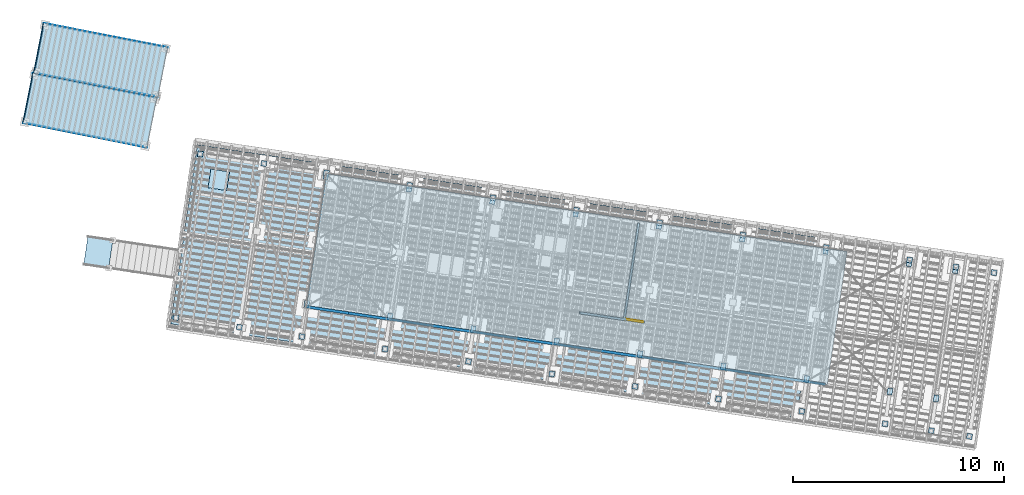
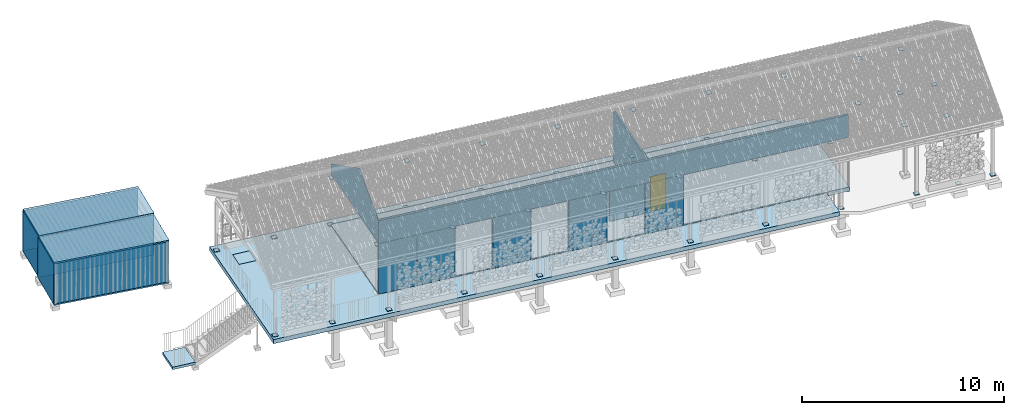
# One storey, part 120 of 131: 50 plates, 7 slabs, 7 walls, 1 door, 3 openings, 5 elements without a shape of their own.
"""IFC4 building model written with IfcOpenShell, lengths in metres."""

from ifc_helpers import new_model, si_unit, direction, frame, origin_with_axes, place, context, subcontext, project, spatial, polyline, outline, extrude, material, layer, layer_set, constituent, constituent_set, element, fill, aggregate, save


model = new_model("IFC4")

# Units and contexts
model_context = context("Model", 3, precision=1e-05, world=origin_with_axes(), true_north=direction((0.0, 1.0)))
body_context = subcontext(model_context, "Body", "Model", "MODEL_VIEW")
ifc_project = project(units=[si_unit("VOLUMEUNIT", "CUBIC_METRE"), si_unit("LENGTHUNIT", "METRE"), si_unit("AREAUNIT", "SQUARE_METRE")], contexts=[model_context])

# Site, building, storey
site_placement = place(None, origin_with_axes())
site = spatial("IfcSite", under=ifc_project, at=site_placement, Name="Lares · Rua das Mercês · artigo 4771")
building_placement = place(site_placement, frame((15.0, 9.7, 14.65), z_axis=(0.0, 0.0, 1.0), x_axis=(0.989015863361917, -0.147809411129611, 0.0)))
building = spatial("IfcBuilding", under=site, at=building_placement, Name="Casa Sobreposta")
storey_placement = place(building_placement, origin_with_axes())
storey = spatial("IfcBuildingStorey", under=building, at=storey_placement, Name="00 · Habitação e estacionamento", Elevation=14.65)

# Plates
ifc_material_1 = material(Name="Aço galvanizado / Stahl verzinkt", Category="steel")
plate_1_placement = place(storey_placement, frame((0.0, 0.0, 2.89), z_axis=(0.0, 0.0, 1.0), x_axis=(1.0, 0.0, 0.0)))
element("IfcPlate", 1, at=plate_1_placement, inside=storey, material=ifc_material_1, Name="Cobertura · ligação madeira aço", PredefinedType="SHEET", context=body_context, shape_type="SweptSolid", body=[
    extrude(outline(polyline([(0.12, -0.04), (0.12, 0.28), (-0.12, 0.28), (-0.12, -0.04), (0.12, -0.04)])), origin_with_axes(), (0.0, 0.0, 1.0), 0.012),
])
plate_2_placement = place(storey_placement, frame((0.0, 0.0, 2.89), z_axis=(0.0, 0.0, 1.0), x_axis=(1.0, 0.0, 0.0)))
element("IfcPlate", 2, at=plate_2_placement, inside=storey, material=ifc_material_1, Name="Cobertura · ligação madeira aço", PredefinedType="SHEET", context=body_context, shape_type="SweptSolid", body=[
    extrude(outline(polyline([(0.12, 6.12), (0.12, 6.44), (-0.12, 6.44), (-0.12, 6.12), (0.12, 6.12)])), origin_with_axes(), (0.0, 0.0, 1.0), 0.012),
])
plate_3_placement = place(storey_placement, frame((0.0, 0.0, 2.89), z_axis=(0.0, 0.0, 1.0), x_axis=(1.0, 0.0, 0.0)))
element("IfcPlate", 3, at=plate_3_placement, inside=storey, material=ifc_material_1, Name="Cobertura · ligação madeira aço", PredefinedType="SHEET", context=body_context, shape_type="SweptSolid", body=[
    extrude(outline(polyline([(4.12, -0.04), (4.12, 0.28), (3.88, 0.28), (3.88, -0.04), (4.12, -0.04)])), origin_with_axes(), (0.0, 0.0, 1.0), 0.012),
])
plate_4_placement = place(storey_placement, frame((0.0, 0.0, 2.89), z_axis=(0.0, 0.0, 1.0), x_axis=(1.0, 0.0, 0.0)))
element("IfcPlate", 4, at=plate_4_placement, inside=storey, material=ifc_material_1, Name="Cobertura · ligação madeira aço", PredefinedType="SHEET", context=body_context, shape_type="SweptSolid", body=[
    extrude(outline(polyline([(4.12, 6.12), (4.12, 6.44), (3.88, 6.44), (3.88, 6.12), (4.12, 6.12)])), origin_with_axes(), (0.0, 0.0, 1.0), 0.012),
])
plate_5_placement = place(storey_placement, frame((0.0, 0.0, 2.89), z_axis=(0.0, 0.0, 1.0), x_axis=(1.0, 0.0, 0.0)))
element("IfcPlate", 5, at=plate_5_placement, inside=storey, material=ifc_material_1, Name="Cobertura · ligação madeira aço", PredefinedType="SHEET", context=body_context, shape_type="SweptSolid", body=[
    extrude(outline(polyline([(8.12, -0.04), (8.12, 0.28), (7.88, 0.28), (7.88, -0.04), (8.12, -0.04)])), origin_with_axes(), (0.0, 0.0, 1.0), 0.012),
])
plate_6_placement = place(storey_placement, frame((0.0, 0.0, 2.89), z_axis=(0.0, 0.0, 1.0), x_axis=(1.0, 0.0, 0.0)))
element("IfcPlate", 6, at=plate_6_placement, inside=storey, material=ifc_material_1, Name="Cobertura · ligação madeira aço", PredefinedType="SHEET", context=body_context, shape_type="SweptSolid", body=[
    extrude(outline(polyline([(8.12, 6.12), (8.12, 6.44), (7.88, 6.44), (7.88, 6.12), (8.12, 6.12)])), origin_with_axes(), (0.0, 0.0, 1.0), 0.012),
])
plate_7_placement = place(storey_placement, frame((0.0, 0.0, 2.89), z_axis=(0.0, 0.0, 1.0), x_axis=(1.0, 0.0, 0.0)))
element("IfcPlate", 7, at=plate_7_placement, inside=storey, material=ifc_material_1, Name="Cobertura · ligação madeira aço", PredefinedType="SHEET", context=body_context, shape_type="SweptSolid", body=[
    extrude(outline(polyline([(12.12, -0.04), (12.12, 0.28), (11.88, 0.28), (11.88, -0.04), (12.12, -0.04)])), origin_with_axes(), (0.0, 0.0, 1.0), 0.012),
])
plate_8_placement = place(storey_placement, frame((0.0, 0.0, 2.89), z_axis=(0.0, 0.0, 1.0), x_axis=(1.0, 0.0, 0.0)))
element("IfcPlate", 8, at=plate_8_placement, inside=storey, material=ifc_material_1, Name="Cobertura · ligação madeira aço", PredefinedType="SHEET", context=body_context, shape_type="SweptSolid", body=[
    extrude(outline(polyline([(12.12, 6.12), (12.12, 6.44), (11.88, 6.44), (11.88, 6.12), (12.12, 6.12)])), origin_with_axes(), (0.0, 0.0, 1.0), 0.012),
])
plate_9_placement = place(storey_placement, frame((0.0, 0.0, 2.89), z_axis=(0.0, 0.0, 1.0), x_axis=(1.0, 0.0, 0.0)))
element("IfcPlate", 9, at=plate_9_placement, inside=storey, material=ifc_material_1, Name="Cobertura · ligação madeira aço", PredefinedType="SHEET", context=body_context, shape_type="SweptSolid", body=[
    extrude(outline(polyline([(16.12, -0.04), (16.12, 0.28), (15.88, 0.28), (15.88, -0.04), (16.12, -0.04)])), origin_with_axes(), (0.0, 0.0, 1.0), 0.012),
])
plate_10_placement = place(storey_placement, frame((0.0, 0.0, 2.89), z_axis=(0.0, 0.0, 1.0), x_axis=(1.0, 0.0, 0.0)))
element("IfcPlate", 10, at=plate_10_placement, inside=storey, material=ifc_material_1, Name="Cobertura · ligação madeira aço", PredefinedType="SHEET", context=body_context, shape_type="SweptSolid", body=[
    extrude(outline(polyline([(16.12, 6.12), (16.12, 6.44), (15.88, 6.44), (15.88, 6.12), (16.12, 6.12)])), origin_with_axes(), (0.0, 0.0, 1.0), 0.012),
])
plate_11_placement = place(storey_placement, frame((0.0, 0.0, 2.89), z_axis=(0.0, 0.0, 1.0), x_axis=(1.0, 0.0, 0.0)))
element("IfcPlate", 11, at=plate_11_placement, inside=storey, material=ifc_material_1, Name="Cobertura · ligação madeira aço", PredefinedType="SHEET", context=body_context, shape_type="SweptSolid", body=[
    extrude(outline(polyline([(20.12, -0.04), (20.12, 0.28), (19.88, 0.28), (19.88, -0.04), (20.12, -0.04)])), origin_with_axes(), (0.0, 0.0, 1.0), 0.012),
])
plate_12_placement = place(storey_placement, frame((0.0, 0.0, 2.89), z_axis=(0.0, 0.0, 1.0), x_axis=(1.0, 0.0, 0.0)))
element("IfcPlate", 12, at=plate_12_placement, inside=storey, material=ifc_material_1, Name="Cobertura · ligação madeira aço", PredefinedType="SHEET", context=body_context, shape_type="SweptSolid", body=[
    extrude(outline(polyline([(20.12, 6.12), (20.12, 6.44), (19.88, 6.44), (19.88, 6.12), (20.12, 6.12)])), origin_with_axes(), (0.0, 0.0, 1.0), 0.012),
])
plate_13_placement = place(storey_placement, frame((0.0, 0.0, 2.89), z_axis=(0.0, 0.0, 1.0), x_axis=(1.0, 0.0, 0.0)))
element("IfcPlate", 13, at=plate_13_placement, inside=storey, material=ifc_material_1, Name="Cobertura · ligação madeira aço", PredefinedType="SHEET", context=body_context, shape_type="SweptSolid", body=[
    extrude(outline(polyline([(24.12, -0.04), (24.12, 0.28), (23.88, 0.28), (23.88, -0.04), (24.12, -0.04)])), origin_with_axes(), (0.0, 0.0, 1.0), 0.012),
])
plate_14_placement = place(storey_placement, frame((0.0, 0.0, 2.89), z_axis=(0.0, 0.0, 1.0), x_axis=(1.0, 0.0, 0.0)))
element("IfcPlate", 14, at=plate_14_placement, inside=storey, material=ifc_material_1, Name="Cobertura · ligação madeira aço", PredefinedType="SHEET", context=body_context, shape_type="SweptSolid", body=[
    extrude(outline(polyline([(24.12, 6.12), (24.12, 6.44), (23.88, 6.44), (23.88, 6.12), (24.12, 6.12)])), origin_with_axes(), (0.0, 0.0, 1.0), 0.012),
])
plate_15_placement = place(storey_placement, frame((0.0, 0.0, 2.89), z_axis=(0.0, 0.0, 1.0), x_axis=(1.0, 0.0, 0.0)))
element("IfcPlate", 15, at=plate_15_placement, inside=storey, material=ifc_material_1, Name="Cobertura · ligação madeira aço", PredefinedType="SHEET", context=body_context, shape_type="SweptSolid", body=[
    extrude(outline(polyline([(28.12, -0.04), (28.12, 0.28), (27.88, 0.28), (27.88, -0.04), (28.12, -0.04)])), origin_with_axes(), (0.0, 0.0, 1.0), 0.012),
])
plate_16_placement = place(storey_placement, frame((0.0, 0.0, 2.89), z_axis=(0.0, 0.0, 1.0), x_axis=(1.0, 0.0, 0.0)))
element("IfcPlate", 16, at=plate_16_placement, inside=storey, material=ifc_material_1, Name="Cobertura · ligação madeira aço", PredefinedType="SHEET", context=body_context, shape_type="SweptSolid", body=[
    extrude(outline(polyline([(28.12, 6.12), (28.12, 6.44), (27.88, 6.44), (27.88, 6.12), (28.12, 6.12)])), origin_with_axes(), (0.0, 0.0, 1.0), 0.012),
])
plate_17_placement = place(storey_placement, frame((0.0, 0.0, 2.89), z_axis=(0.0, 0.0, 1.0), x_axis=(1.0, 0.0, 0.0)))
element("IfcPlate", 17, at=plate_17_placement, inside=storey, material=ifc_material_1, Name="Cobertura · ligação madeira aço", PredefinedType="SHEET", context=body_context, shape_type="SweptSolid", body=[
    extrude(outline(polyline([(30.34, -0.04), (30.34, 0.28), (30.1, 0.28), (30.1, -0.04), (30.34, -0.04)])), origin_with_axes(), (0.0, 0.0, 1.0), 0.012),
])
plate_18_placement = place(storey_placement, frame((0.0, 0.0, 2.89), z_axis=(0.0, 0.0, 1.0), x_axis=(1.0, 0.0, 0.0)))
element("IfcPlate", 18, at=plate_18_placement, inside=storey, material=ifc_material_1, Name="Cobertura · ligação madeira aço", PredefinedType="SHEET", context=body_context, shape_type="SweptSolid", body=[
    extrude(outline(polyline([(30.34, 6.12), (30.34, 6.44), (30.1, 6.44), (30.1, 6.12), (30.34, 6.12)])), origin_with_axes(), (0.0, 0.0, 1.0), 0.012),
])
ifc_material_2 = material(Name="Vidro / Normalglas", Category="glass")
plate_19_placement = place(storey_placement, frame((0.0, 0.0, 0.0), z_axis=(1.0, 0.0, 0.0), x_axis=(0.0, 1.0, 0.0)))
element("IfcPlate", 19, at=plate_19_placement, inside=storey, material=ifc_material_2, Name="Empena poente envidraçada", PredefinedType="SHEET", context=body_context, shape_type="SweptSolid", body=[
    extrude(outline(polyline([(0.0, 3.05), (6.4, 3.05), (6.4, 3.66641016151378), (2.55, 5.88920869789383), (0.0, 4.41696551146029), (0.0, 3.05)])), origin_with_axes(), (0.0, 0.0, 1.0), 0.02),
])

# Assembly, slabs, opening, plate
assembly_1_placement = place(storey_placement, origin_with_axes())
assembly_1 = element("IfcElementAssembly", 20, at=assembly_1_placement, inside=storey, Name="Pódio · terraço, casa térrea e cisterna", ObjectType="CISTERN_PODIUM", PredefinedType="USERDEFINED")
ifc_material_3 = material(Name="Betão armado / Stahlbeton", Category="concrete")
slab_1_placement = place(assembly_1_placement, frame((0.0, 0.0, -0.25), z_axis=(0.0, 0.0, 1.0), x_axis=(1.0, 0.0, 0.0)))
slab_1 = element("IfcSlab", 21, at=slab_1_placement, material=ifc_material_3, Name="Pódio · laje da casa 250 mm", PredefinedType="FLOOR", context=body_context, shape_type="SweptSolid", body=[
    extrude(outline(polyline([(25.01, 0.0), (25.01, 6.4), (0.0, 6.4), (0.0, 0.0), (25.01, 0.0)])), origin_with_axes(), (0.0, 0.0, 1.0), 0.25),
])
slab_2_placement = place(assembly_1_placement, frame((0.0, 0.0, -0.29), z_axis=(0.0, 0.0, 1.0), x_axis=(1.0, 0.0, 0.0)))
slab_2 = element("IfcSlab", 22, at=slab_2_placement, material=ifc_material_3, Name="Pódio · terraço e faixa de proteção sul", PredefinedType="FLOOR", context=body_context, shape_type="SweptSolid", body=[
    extrude(outline(polyline([(-6.25, 6.85), (23.8, 6.85), (23.8, 6.4), (0.0, 6.4), (0.0, 0.0), (23.8, 0.0), (23.8, -1.75), (-6.25, -1.75), (-6.25, 6.85)])), origin_with_axes(), (0.0, 0.0, 1.0), 0.25),
])
opening_1_placement = place(slab_2_placement, frame((0.0, 0.0, -0.06), z_axis=(0.0, 0.0, 1.0), x_axis=(1.0, 0.0, 0.0)))
element("IfcOpeningElement", 23, at=opening_1_placement, cuts=slab_2, Name="Cisterna · abertura de inspeção", PredefinedType="OPENING", context=body_context, shape_type="SweptSolid", body=[
    extrude(outline(polyline([(-4.55, 4.9), (-4.55, 5.8), (-5.45, 5.8), (-5.45, 4.9), (-4.55, 4.9)])), origin_with_axes(), (0.0, 0.0, 1.0), 0.4),
])
plate_20_placement = place(assembly_1_placement, frame((0.0, 0.0, -0.085), z_axis=(0.0, 0.0, 1.0), x_axis=(1.0, 0.0, 0.0)))
plate_20 = element("IfcPlate", 24, at=plate_20_placement, material=ifc_material_1, Name="Cisterna · tampa estanque de inspeção", PredefinedType="SHEET", context=body_context, shape_type="SweptSolid", body=[
    extrude(outline(polyline([(-4.55, 4.9), (-4.55, 5.8), (-5.45, 5.8), (-5.45, 4.9), (-4.55, 4.9)])), origin_with_axes(), (0.0, 0.0, 1.0), 0.045),
])
aggregate(assembly_1, [slab_1, slab_2, plate_20])

# Stair, slab
stair_placement = place(storey_placement, origin_with_axes())
stair = element("IfcStair", 25, at=stair_placement, inside=storey, Name="Jardim · escada pela fachada poente", PredefinedType="STRAIGHT_RUN_STAIR")
slab_3_placement = place(stair_placement, frame((0.0, 0.0, -2.1), z_axis=(0.0, 0.0, 1.0), x_axis=(1.0, 0.0, 0.0)))
slab_3 = element("IfcSlab", 26, at=slab_3_placement, material=ifc_material_3, Name="Jardim · patamar poente", PredefinedType="LANDING", context=body_context, shape_type="SweptSolid", body=[
    extrude(outline(polyline([(-9.55, 0.4), (-9.55, 1.8), (-10.75, 1.8), (-10.75, 0.4), (-9.55, 0.4)])), origin_with_axes(), (0.0, 0.0, 1.0), 0.15),
])
aggregate(stair, [slab_3])

# Assembly, plates
assembly_2_placement = place(storey_placement, origin_with_axes())
assembly_2 = element("IfcElementAssembly", 27, at=assembly_2_placement, inside=storey, Name="Varanda coberta · continuação integral da cobertura", ObjectType="COVERED_PODIUM_BALCONY", PredefinedType="USERDEFINED")
plate_21_placement = place(assembly_2_placement, frame((0.0, 0.0, -0.04), z_axis=(0.0, 0.0, 1.0), x_axis=(1.0, 0.0, 0.0)))
plate_21 = element("IfcPlate", 28, at=plate_21_placement, material=ifc_material_1, Name="Varanda coberta · base metálica", PredefinedType="SHEET", context=body_context, shape_type="SweptSolid", body=[
    extrude(outline(polyline([(-5.92, -1.56), (-5.92, -1.3), (-6.18, -1.3), (-6.18, -1.56), (-5.92, -1.56)])), origin_with_axes(), (0.0, 0.0, 1.0), 0.025),
])
plate_22_placement = place(assembly_2_placement, frame((0.0, 0.0, -0.04), z_axis=(0.0, 0.0, 1.0), x_axis=(1.0, 0.0, 0.0)))
plate_22 = element("IfcPlate", 29, at=plate_22_placement, material=ifc_material_1, Name="Varanda coberta · base metálica", PredefinedType="SHEET", context=body_context, shape_type="SweptSolid", body=[
    extrude(outline(polyline([(-5.92, 6.3), (-5.92, 6.56), (-6.18, 6.56), (-6.18, 6.3), (-5.92, 6.3)])), origin_with_axes(), (0.0, 0.0, 1.0), 0.025),
])
plate_23_placement = place(assembly_2_placement, frame((0.0, 0.0, -0.04), z_axis=(0.0, 0.0, 1.0), x_axis=(1.0, 0.0, 0.0)))
plate_23 = element("IfcPlate", 30, at=plate_23_placement, material=ifc_material_1, Name="Varanda coberta · base metálica", PredefinedType="SHEET", context=body_context, shape_type="SweptSolid", body=[
    extrude(outline(polyline([(-2.87, -1.56), (-2.87, -1.3), (-3.13, -1.3), (-3.13, -1.56), (-2.87, -1.56)])), origin_with_axes(), (0.0, 0.0, 1.0), 0.025),
])
plate_24_placement = place(assembly_2_placement, frame((0.0, 0.0, -0.04), z_axis=(0.0, 0.0, 1.0), x_axis=(1.0, 0.0, 0.0)))
plate_24 = element("IfcPlate", 31, at=plate_24_placement, material=ifc_material_1, Name="Varanda coberta · base metálica", PredefinedType="SHEET", context=body_context, shape_type="SweptSolid", body=[
    extrude(outline(polyline([(-2.87, 6.3), (-2.87, 6.56), (-3.13, 6.56), (-3.13, 6.3), (-2.87, 6.3)])), origin_with_axes(), (0.0, 0.0, 1.0), 0.025),
])
plate_25_placement = place(assembly_2_placement, frame((0.0, 0.0, -0.04), z_axis=(0.0, 0.0, 1.0), x_axis=(1.0, 0.0, 0.0)))
plate_25 = element("IfcPlate", 32, at=plate_25_placement, material=ifc_material_1, Name="Varanda coberta · base metálica", PredefinedType="SHEET", context=body_context, shape_type="SweptSolid", body=[
    extrude(outline(polyline([(0.13, -1.56), (0.13, -1.3), (-0.13, -1.3), (-0.13, -1.56), (0.13, -1.56)])), origin_with_axes(), (0.0, 0.0, 1.0), 0.025),
])
plate_26_placement = place(assembly_2_placement, frame((0.0, 0.0, -0.04), z_axis=(0.0, 0.0, 1.0), x_axis=(1.0, 0.0, 0.0)))
plate_26 = element("IfcPlate", 33, at=plate_26_placement, material=ifc_material_1, Name="Varanda coberta · base metálica", PredefinedType="SHEET", context=body_context, shape_type="SweptSolid", body=[
    extrude(outline(polyline([(0.13, 6.3), (0.13, 6.56), (-0.13, 6.56), (-0.13, 6.3), (0.13, 6.3)])), origin_with_axes(), (0.0, 0.0, 1.0), 0.025),
])
plate_27_placement = place(assembly_2_placement, frame((0.0, 0.0, -0.04), z_axis=(0.0, 0.0, 1.0), x_axis=(1.0, 0.0, 0.0)))
plate_27 = element("IfcPlate", 34, at=plate_27_placement, material=ifc_material_1, Name="Varanda coberta · base metálica", PredefinedType="SHEET", context=body_context, shape_type="SweptSolid", body=[
    extrude(outline(polyline([(4.13, -1.56), (4.13, -1.3), (3.87, -1.3), (3.87, -1.56), (4.13, -1.56)])), origin_with_axes(), (0.0, 0.0, 1.0), 0.025),
])
plate_28_placement = place(assembly_2_placement, frame((0.0, 0.0, -0.04), z_axis=(0.0, 0.0, 1.0), x_axis=(1.0, 0.0, 0.0)))
plate_28 = element("IfcPlate", 35, at=plate_28_placement, material=ifc_material_1, Name="Varanda coberta · base metálica", PredefinedType="SHEET", context=body_context, shape_type="SweptSolid", body=[
    extrude(outline(polyline([(4.13, 6.3), (4.13, 6.56), (3.87, 6.56), (3.87, 6.3), (4.13, 6.3)])), origin_with_axes(), (0.0, 0.0, 1.0), 0.025),
])
plate_29_placement = place(assembly_2_placement, frame((0.0, 0.0, -0.04), z_axis=(0.0, 0.0, 1.0), x_axis=(1.0, 0.0, 0.0)))
plate_29 = element("IfcPlate", 36, at=plate_29_placement, material=ifc_material_1, Name="Varanda coberta · base metálica", PredefinedType="SHEET", context=body_context, shape_type="SweptSolid", body=[
    extrude(outline(polyline([(8.13, -1.56), (8.13, -1.3), (7.87, -1.3), (7.87, -1.56), (8.13, -1.56)])), origin_with_axes(), (0.0, 0.0, 1.0), 0.025),
])
plate_30_placement = place(assembly_2_placement, frame((0.0, 0.0, -0.04), z_axis=(0.0, 0.0, 1.0), x_axis=(1.0, 0.0, 0.0)))
plate_30 = element("IfcPlate", 37, at=plate_30_placement, material=ifc_material_1, Name="Varanda coberta · base metálica", PredefinedType="SHEET", context=body_context, shape_type="SweptSolid", body=[
    extrude(outline(polyline([(8.13, 6.3), (8.13, 6.56), (7.87, 6.56), (7.87, 6.3), (8.13, 6.3)])), origin_with_axes(), (0.0, 0.0, 1.0), 0.025),
])
plate_31_placement = place(assembly_2_placement, frame((0.0, 0.0, -0.04), z_axis=(0.0, 0.0, 1.0), x_axis=(1.0, 0.0, 0.0)))
plate_31 = element("IfcPlate", 38, at=plate_31_placement, material=ifc_material_1, Name="Varanda coberta · base metálica", PredefinedType="SHEET", context=body_context, shape_type="SweptSolid", body=[
    extrude(outline(polyline([(12.13, -1.56), (12.13, -1.3), (11.87, -1.3), (11.87, -1.56), (12.13, -1.56)])), origin_with_axes(), (0.0, 0.0, 1.0), 0.025),
])
plate_32_placement = place(assembly_2_placement, frame((0.0, 0.0, -0.04), z_axis=(0.0, 0.0, 1.0), x_axis=(1.0, 0.0, 0.0)))
plate_32 = element("IfcPlate", 39, at=plate_32_placement, material=ifc_material_1, Name="Varanda coberta · base metálica", PredefinedType="SHEET", context=body_context, shape_type="SweptSolid", body=[
    extrude(outline(polyline([(12.13, 6.3), (12.13, 6.56), (11.87, 6.56), (11.87, 6.3), (12.13, 6.3)])), origin_with_axes(), (0.0, 0.0, 1.0), 0.025),
])
plate_33_placement = place(assembly_2_placement, frame((0.0, 0.0, -0.04), z_axis=(0.0, 0.0, 1.0), x_axis=(1.0, 0.0, 0.0)))
plate_33 = element("IfcPlate", 40, at=plate_33_placement, material=ifc_material_1, Name="Varanda coberta · base metálica", PredefinedType="SHEET", context=body_context, shape_type="SweptSolid", body=[
    extrude(outline(polyline([(16.13, -1.56), (16.13, -1.3), (15.87, -1.3), (15.87, -1.56), (16.13, -1.56)])), origin_with_axes(), (0.0, 0.0, 1.0), 0.025),
])
plate_34_placement = place(assembly_2_placement, frame((0.0, 0.0, -0.04), z_axis=(0.0, 0.0, 1.0), x_axis=(1.0, 0.0, 0.0)))
plate_34 = element("IfcPlate", 41, at=plate_34_placement, material=ifc_material_1, Name="Varanda coberta · base metálica", PredefinedType="SHEET", context=body_context, shape_type="SweptSolid", body=[
    extrude(outline(polyline([(16.13, 6.3), (16.13, 6.56), (15.87, 6.56), (15.87, 6.3), (16.13, 6.3)])), origin_with_axes(), (0.0, 0.0, 1.0), 0.025),
])
plate_35_placement = place(assembly_2_placement, frame((0.0, 0.0, -0.04), z_axis=(0.0, 0.0, 1.0), x_axis=(1.0, 0.0, 0.0)))
plate_35 = element("IfcPlate", 42, at=plate_35_placement, material=ifc_material_1, Name="Varanda coberta · base metálica", PredefinedType="SHEET", context=body_context, shape_type="SweptSolid", body=[
    extrude(outline(polyline([(20.13, -1.56), (20.13, -1.3), (19.87, -1.3), (19.87, -1.56), (20.13, -1.56)])), origin_with_axes(), (0.0, 0.0, 1.0), 0.025),
])
plate_36_placement = place(assembly_2_placement, frame((0.0, 0.0, -0.04), z_axis=(0.0, 0.0, 1.0), x_axis=(1.0, 0.0, 0.0)))
plate_36 = element("IfcPlate", 43, at=plate_36_placement, material=ifc_material_1, Name="Varanda coberta · base metálica", PredefinedType="SHEET", context=body_context, shape_type="SweptSolid", body=[
    extrude(outline(polyline([(20.13, 6.3), (20.13, 6.56), (19.87, 6.56), (19.87, 6.3), (20.13, 6.3)])), origin_with_axes(), (0.0, 0.0, 1.0), 0.025),
])
plate_37_placement = place(assembly_2_placement, frame((0.0, 0.0, -0.0895950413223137), z_axis=(0.0, 0.0, 1.0), x_axis=(1.0, 0.0, 0.0)))
plate_37 = element("IfcPlate", 44, at=plate_37_placement, material=ifc_material_1, Name="Varanda coberta · base metálica", PredefinedType="SHEET", context=body_context, shape_type="SweptSolid", body=[
    extrude(outline(polyline([(24.13, -1.56), (24.13, -1.3), (23.87, -1.3), (23.87, -1.56), (24.13, -1.56)])), origin_with_axes(), (0.0, 0.0, 1.0), 0.025),
])
plate_38_placement = place(assembly_2_placement, frame((0.0, 0.0, -0.0376280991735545), z_axis=(0.0, 0.0, 1.0), x_axis=(1.0, 0.0, 0.0)))
plate_38 = element("IfcPlate", 45, at=plate_38_placement, material=ifc_material_1, Name="Varanda coberta · base metálica", PredefinedType="SHEET", context=body_context, shape_type="SweptSolid", body=[
    extrude(outline(polyline([(24.13, 6.3), (24.13, 6.56), (23.87, 6.56), (23.87, 6.3), (24.13, 6.3)])), origin_with_axes(), (0.0, 0.0, 1.0), 0.025),
])
plate_39_placement = place(assembly_2_placement, frame((0.0, 0.0, -0.24005), z_axis=(0.0, 0.0, 1.0), x_axis=(1.0, 0.0, 0.0)))
plate_39 = element("IfcPlate", 46, at=plate_39_placement, material=ifc_material_1, Name="Varanda coberta · base metálica", PredefinedType="SHEET", context=body_context, shape_type="SweptSolid", body=[
    extrude(outline(polyline([(28.13, -1.56), (28.13, -1.3), (27.87, -1.3), (27.87, -1.56), (28.13, -1.56)])), origin_with_axes(), (0.0, 0.0, 1.0), 0.025),
])
plate_40_placement = place(assembly_2_placement, frame((0.0, 0.0, 0.0743500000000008), z_axis=(0.0, 0.0, 1.0), x_axis=(1.0, 0.0, 0.0)))
plate_40 = element("IfcPlate", 47, at=plate_40_placement, material=ifc_material_1, Name="Varanda coberta · base metálica", PredefinedType="SHEET", context=body_context, shape_type="SweptSolid", body=[
    extrude(outline(polyline([(28.13, 6.3), (28.13, 6.56), (27.87, 6.56), (27.87, 6.3), (28.13, 6.3)])), origin_with_axes(), (0.0, 0.0, 1.0), 0.025),
])
plate_41_placement = place(assembly_2_placement, frame((0.0, 0.0, -0.18455), z_axis=(0.0, 0.0, 1.0), x_axis=(1.0, 0.0, 0.0)))
plate_41 = element("IfcPlate", 48, at=plate_41_placement, material=ifc_material_1, Name="Varanda coberta · base metálica", PredefinedType="SHEET", context=body_context, shape_type="SweptSolid", body=[
    extrude(outline(polyline([(30.35, -1.56), (30.35, -1.3), (30.09, -1.3), (30.09, -1.56), (30.35, -1.56)])), origin_with_axes(), (0.0, 0.0, 1.0), 0.025),
])
plate_42_placement = place(assembly_2_placement, frame((0.0, 0.0, 0.129850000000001), z_axis=(0.0, 0.0, 1.0), x_axis=(1.0, 0.0, 0.0)))
plate_42 = element("IfcPlate", 49, at=plate_42_placement, material=ifc_material_1, Name="Varanda coberta · base metálica", PredefinedType="SHEET", context=body_context, shape_type="SweptSolid", body=[
    extrude(outline(polyline([(30.35, 6.3), (30.35, 6.56), (30.09, 6.56), (30.09, 6.3), (30.35, 6.3)])), origin_with_axes(), (0.0, 0.0, 1.0), 0.025),
])
plate_43_placement = place(assembly_2_placement, frame((0.0, 0.0, -0.1388), z_axis=(0.0, 0.0, 1.0), x_axis=(1.0, 0.0, 0.0)))
plate_43 = element("IfcPlate", 50, at=plate_43_placement, material=ifc_material_1, Name="Varanda coberta · base metálica", PredefinedType="SHEET", context=body_context, shape_type="SweptSolid", body=[
    extrude(outline(polyline([(32.18, -1.56), (32.18, -1.3), (31.92, -1.3), (31.92, -1.56), (32.18, -1.56)])), origin_with_axes(), (0.0, 0.0, 1.0), 0.025),
])
plate_44_placement = place(assembly_2_placement, frame((0.0, 0.0, 0.175600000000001), z_axis=(0.0, 0.0, 1.0), x_axis=(1.0, 0.0, 0.0)))
plate_44 = element("IfcPlate", 51, at=plate_44_placement, material=ifc_material_1, Name="Varanda coberta · base metálica", PredefinedType="SHEET", context=body_context, shape_type="SweptSolid", body=[
    extrude(outline(polyline([(32.18, 6.3), (32.18, 6.56), (31.92, 6.56), (31.92, 6.3), (32.18, 6.3)])), origin_with_axes(), (0.0, 0.0, 1.0), 0.025),
])
aggregate(assembly_2, [plate_21, plate_22, plate_23, plate_24, plate_25, plate_26, plate_27, plate_28, plate_29, plate_30, plate_31, plate_32, plate_33, plate_34, plate_35, plate_36, plate_37, plate_38, plate_39, plate_40, plate_41, plate_42, plate_43, plate_44])

# Assembly, slabs, plates
assembly_3_placement = place(storey_placement, frame((-14.4335953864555, 9.04888612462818, 0.0), z_axis=(0.0, 0.0, 1.0), x_axis=(0.999032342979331, -0.0439815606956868, 0.0)))
assembly_3 = element("IfcElementAssembly", 52, at=assembly_3_placement, inside=storey, Name="Contentor existente 1 · 6 m", ObjectType="EXISTING_SHIPPING_CONTAINER", PredefinedType="USERDEFINED")
ifc_material_4 = material(Name="Contentor · pintura 1", Category="steel")
slab_4_placement = place(assembly_3_placement, frame((0.0, 0.0, -1.3), z_axis=(0.0, 0.0, 1.0), x_axis=(1.0, 0.0, 0.0)))
slab_4 = element("IfcSlab", 53, at=slab_4_placement, material=ifc_material_4, Name="Contentor · piso ou teto", PredefinedType="FLOOR", context=body_context, shape_type="SweptSolid", body=[
    extrude(outline(polyline([(6.0, 0.0), (6.0, 2.44), (0.0, 2.44), (0.0, 0.0), (6.0, 0.0)])), origin_with_axes(), (0.0, 0.0, 1.0), 0.08),
])
slab_5_placement = place(assembly_3_placement, frame((0.0, 0.0, 1.21), z_axis=(0.0, 0.0, 1.0), x_axis=(1.0, 0.0, 0.0)))
slab_5 = element("IfcSlab", 54, at=slab_5_placement, material=ifc_material_4, Name="Contentor · piso ou teto", PredefinedType="FLOOR", context=body_context, shape_type="SweptSolid", body=[
    extrude(outline(polyline([(6.0, 0.0), (6.0, 2.44), (0.0, 2.44), (0.0, 0.0), (6.0, 0.0)])), origin_with_axes(), (0.0, 0.0, 1.0), 0.08),
])
plate_45_placement = place(assembly_3_placement, frame((0.0, 0.0, -1.22), z_axis=(0.0, 0.0, 1.0), x_axis=(1.0, 0.0, 0.0)))
plate_45 = element("IfcPlate", 55, at=plate_45_placement, material=ifc_material_4, Name="Contentor · chapa lateral", context=body_context, shape_type="SweptSolid", body=[
    extrude(outline(polyline([(6.0, 0.0325), (6.0, 0.0075), (0.0, 0.0075), (0.0, 0.0325), (6.0, 0.0325)])), origin_with_axes(), (0.0, 0.0, 1.0), 2.43),
])
plate_46_placement = place(assembly_3_placement, frame((0.0, 0.0, -1.22), z_axis=(0.0, 0.0, 1.0), x_axis=(1.0, 0.0, 0.0)))
plate_46 = element("IfcPlate", 56, at=plate_46_placement, material=ifc_material_4, Name="Contentor · chapa lateral", context=body_context, shape_type="SweptSolid", body=[
    extrude(outline(polyline([(6.0, 2.4325), (6.0, 2.4075), (0.0, 2.4075), (0.0, 2.4325), (6.0, 2.4325)])), origin_with_axes(), (0.0, 0.0, 1.0), 2.43),
])
plate_47_placement = place(assembly_3_placement, frame((0.0, 0.0, -1.22), z_axis=(0.0, 0.0, 1.0), x_axis=(1.0, 0.0, 0.0)))
plate_47 = element("IfcPlate", 57, at=plate_47_placement, material=ifc_material_4, Name="Contentor · chapa de fundo", context=body_context, shape_type="SweptSolid", body=[
    extrude(outline(polyline([(-0.025, 2.44), (0.025, 2.44), (0.025, 0.0), (-0.025, 0.0), (-0.025, 2.44)])), origin_with_axes(), (0.0, 0.0, 1.0), 2.43),
])
aggregate(assembly_3, [slab_4, slab_5, plate_45, plate_46, plate_47])

assembly_4_placement = place(storey_placement, frame((-14.5932944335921, 6.63122214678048, 0.0), z_axis=(0.0, 0.0, 1.0), x_axis=(0.998832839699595, -0.0483007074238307, 0.0)))
assembly_4 = element("IfcElementAssembly", 58, at=assembly_4_placement, inside=storey, Name="Contentor existente 2 · 6 m", ObjectType="EXISTING_SHIPPING_CONTAINER", PredefinedType="USERDEFINED")
ifc_material_5 = material(Name="Contentor · pintura 2", Category="steel")
slab_6_placement = place(assembly_4_placement, frame((0.0, 0.0, -1.3), z_axis=(0.0, 0.0, 1.0), x_axis=(1.0, 0.0, 0.0)))
slab_6 = element("IfcSlab", 59, at=slab_6_placement, material=ifc_material_5, Name="Contentor · piso ou teto", PredefinedType="FLOOR", context=body_context, shape_type="SweptSolid", body=[
    extrude(outline(polyline([(6.0, 0.0), (6.0, 2.44), (0.0, 2.44), (0.0, 0.0), (6.0, 0.0)])), origin_with_axes(), (0.0, 0.0, 1.0), 0.08),
])
slab_7_placement = place(assembly_4_placement, frame((0.0, 0.0, 1.21), z_axis=(0.0, 0.0, 1.0), x_axis=(1.0, 0.0, 0.0)))
slab_7 = element("IfcSlab", 60, at=slab_7_placement, material=ifc_material_5, Name="Contentor · piso ou teto", PredefinedType="FLOOR", context=body_context, shape_type="SweptSolid", body=[
    extrude(outline(polyline([(6.0, 0.0), (6.0, 2.44), (0.0, 2.44), (0.0, 0.0), (6.0, 0.0)])), origin_with_axes(), (0.0, 0.0, 1.0), 0.08),
])
plate_48_placement = place(assembly_4_placement, frame((0.0, 0.0, -1.22), z_axis=(0.0, 0.0, 1.0), x_axis=(1.0, 0.0, 0.0)))
plate_48 = element("IfcPlate", 61, at=plate_48_placement, material=ifc_material_5, Name="Contentor · chapa lateral", context=body_context, shape_type="SweptSolid", body=[
    extrude(outline(polyline([(6.0, 0.0325), (6.0, 0.0075), (0.0, 0.0075), (0.0, 0.0325), (6.0, 0.0325)])), origin_with_axes(), (0.0, 0.0, 1.0), 2.43),
])
plate_49_placement = place(assembly_4_placement, frame((0.0, 0.0, -1.22), z_axis=(0.0, 0.0, 1.0), x_axis=(1.0, 0.0, 0.0)))
plate_49 = element("IfcPlate", 62, at=plate_49_placement, material=ifc_material_5, Name="Contentor · chapa lateral", context=body_context, shape_type="SweptSolid", body=[
    extrude(outline(polyline([(6.0, 2.4325), (6.0, 2.4075), (0.0, 2.4075), (0.0, 2.4325), (6.0, 2.4325)])), origin_with_axes(), (0.0, 0.0, 1.0), 2.43),
])
plate_50_placement = place(assembly_4_placement, frame((0.0, 0.0, -1.22), z_axis=(0.0, 0.0, 1.0), x_axis=(1.0, 0.0, 0.0)))
plate_50 = element("IfcPlate", 63, at=plate_50_placement, material=ifc_material_5, Name="Contentor · chapa de fundo", context=body_context, shape_type="SweptSolid", body=[
    extrude(outline(polyline([(-0.025, 2.44), (0.025, 2.44), (0.025, 0.0), (-0.025, 0.0), (-0.025, 2.44)])), origin_with_axes(), (0.0, 0.0, 1.0), 2.43),
])
aggregate(assembly_4, [slab_6, slab_7, plate_48, plate_49, plate_50])

# Wall, openings, door
ifc_material_6 = material(Name="OSB", Category="wood")
ifc_constituent_1 = constituent(ifc_material_6, Name="osb")
ifc_material_7 = material(Name="Lã mineral / Mineralwolle 2", Category="mineral wool")
ifc_constituent_2 = constituent(ifc_material_7, Name="wool")
ifc_constituent_set = constituent_set(constituents=[ifc_constituent_1, ifc_constituent_2], Name="OSB22 / lã mineral / OSB22")
wall_1_placement = place(storey_placement, origin_with_axes())
wall_1 = element("IfcWall", 64, at=wall_1_placement, inside=storey, material=ifc_constituent_set, Name="Divisória 3 · OSB 22 mm nas duas faces", context=body_context, shape_type="SweptSolid", body=[
    extrude(outline(polyline([(15.07, 6.27299999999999), (15.07, 1.70993390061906), (15.9846265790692, 1.71008560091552), (15.9846448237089, 1.60008560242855), (15.1199999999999, 1.59994219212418), (15.1199999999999, 1.57999999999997), (12.8699999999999, 1.57999999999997), (12.8699999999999, 1.68999999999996), (14.97, 1.68999999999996), (14.97, 6.27299999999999), (15.07, 6.27299999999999)]), holes=[polyline([(14.992, 1.66799999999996), (12.8919999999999, 1.66799999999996), (12.8919999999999, 1.60199999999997), (15.0979999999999, 1.60199999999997), (15.0979999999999, 1.6219385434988), (15.9626411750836, 1.62208195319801), (15.9626302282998, 1.68808195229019), (15.048, 1.68793025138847), (15.048, 6.25099999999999), (14.992, 6.25099999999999), (14.992, 1.66799999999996)])]), origin_with_axes(), (0.0, 0.0, 1.0), 3.05),
    extrude(outline(polyline([(14.992, 6.25099999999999), (15.048, 6.25099999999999), (15.048, 1.68793025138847), (15.9626302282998, 1.68808195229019), (15.9626411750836, 1.62208195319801), (15.0979999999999, 1.6219385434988), (15.0979999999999, 1.60199999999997), (12.8919999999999, 1.60199999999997), (12.8919999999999, 1.66799999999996), (14.992, 1.66799999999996), (14.992, 6.25099999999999)])), origin_with_axes(), (0.0, 0.0, 1.0), 3.05),
])
opening_2_placement = place(wall_1_placement, origin_with_axes())
opening_2 = element("IfcOpeningElement", 65, at=opening_2_placement, cuts=wall_1, PredefinedType="OPENING", context=body_context, shape_type="SweptSolid", body=[
    extrude(outline(polyline([(15.9146091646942, 1.81507398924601), (15.9146622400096, 1.49507399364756), (15.0845696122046, 1.49493631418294), (15.0845165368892, 1.8149363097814), (15.9146091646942, 1.81507398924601)])), origin_with_axes(), (0.0, 0.0, 1.0), 2.1),
])
opening_3_placement = place(wall_1_placement, origin_with_axes())
element("IfcOpeningElement", 66, at=opening_3_placement, cuts=wall_1, PredefinedType="OPENING", context=body_context, shape_type="SweptSolid", body=[
    extrude(outline(polyline([(12.9045964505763, 1.81507398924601), (12.9046495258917, 1.49507399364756), (12.0745568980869, 1.49493631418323), (12.0745038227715, 1.81493630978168), (12.9045964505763, 1.81507398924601)])), origin_with_axes(), (0.0, 0.0, 1.0), 2.1),
])
door_placement = place(storey_placement, origin_with_axes())
door = element("IfcDoor", 67, at=door_placement, inside=storey, material=ifc_material_6, Name="Porta interior 1", OperationType="SINGLE_SWING_LEFT", OverallHeight=2.1, OverallWidth=0.830092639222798, PredefinedType="DOOR", context=body_context, shape_type="SweptSolid", body=[
    extrude(outline(polyline([(15.9146327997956, 1.67257399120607), (15.9146386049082, 1.63757399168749), (15.0845459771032, 1.63743631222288), (15.0845401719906, 1.67243631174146), (15.9146327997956, 1.67257399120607)])), origin_with_axes(), (0.0, 0.0, 1.0), 2.1),
])
fill(opening_2, door)

# Walls
ifc_material_8 = material(Name="Aço pintado / Stahl lackiert", Category="steel")
ifc_layer_1 = layer(ifc_material_8, 0.005, Name="steel")
ifc_layer_2 = layer(ifc_material_7, 0.12, Name="wool")
ifc_layer_3 = layer(ifc_material_8, 0.00516, Name="steel")
ifc_layer_set_1 = layer_set([ifc_layer_1, ifc_layer_2, ifc_layer_3], Name="Casa DFL sandwich · 130.16 mm")
wall_2_placement = place(storey_placement, origin_with_axes())
element("IfcWall", 68, at=wall_2_placement, inside=storey, material=ifc_layer_set_1, Name="Painel opaco sul 0", context=body_context, shape_type="SweptSolid", body=[
    extrude(outline(polyline([(2.02133333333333, 0.06508), (2.02133333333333, -0.06508), (0.0, -0.06508), (0.0, 0.06508), (2.02133333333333, 0.06508)])), origin_with_axes(), (0.0, 0.0, 1.0), 3.05),
])
ifc_layer_4 = layer(ifc_material_8, 0.005, Name="steel")
ifc_layer_5 = layer(ifc_material_7, 0.12, Name="wool")
ifc_layer_6 = layer(ifc_material_8, 0.00516, Name="steel")
ifc_layer_set_2 = layer_set([ifc_layer_4, ifc_layer_5, ifc_layer_6], Name="Casa DFL sandwich · 130.16 mm")
wall_3_placement = place(storey_placement, origin_with_axes())
element("IfcWall", 69, at=wall_3_placement, inside=storey, material=ifc_layer_set_2, Name="Painel opaco sul 1", context=body_context, shape_type="SweptSolid", body=[
    extrude(outline(polyline([(4.04266666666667, 0.06508), (4.04266666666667, -0.06508), (2.02133333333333, -0.06508), (2.02133333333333, 0.06508), (4.04266666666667, 0.06508)])), origin_with_axes(), (0.0, 0.0, 1.0), 3.05),
])
ifc_layer_7 = layer(ifc_material_8, 0.005, Name="steel")
ifc_layer_8 = layer(ifc_material_7, 0.12, Name="wool")
ifc_layer_9 = layer(ifc_material_8, 0.00516, Name="steel")
ifc_layer_set_3 = layer_set([ifc_layer_7, ifc_layer_8, ifc_layer_9], Name="Casa DFL sandwich · 130.16 mm")
wall_4_placement = place(storey_placement, origin_with_axes())
element("IfcWall", 70, at=wall_4_placement, inside=storey, material=ifc_layer_set_3, Name="Painel opaco sul 3", context=body_context, shape_type="SweptSolid", body=[
    extrude(outline(polyline([(8.08533333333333, 0.06508), (8.08533333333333, -0.06508), (6.064, -0.06508), (6.064, 0.06508), (8.08533333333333, 0.06508)])), origin_with_axes(), (0.0, 0.0, 1.0), 3.05),
])
ifc_layer_10 = layer(ifc_material_8, 0.005, Name="steel")
ifc_layer_11 = layer(ifc_material_7, 0.12, Name="wool")
ifc_layer_12 = layer(ifc_material_8, 0.00516, Name="steel")
ifc_layer_set_4 = layer_set([ifc_layer_10, ifc_layer_11, ifc_layer_12], Name="Casa DFL sandwich · 130.16 mm")
wall_5_placement = place(storey_placement, origin_with_axes())
element("IfcWall", 71, at=wall_5_placement, inside=storey, material=ifc_layer_set_4, Name="Painel opaco sul 5", context=body_context, shape_type="SweptSolid", body=[
    extrude(outline(polyline([(12.128, 0.06508), (12.128, -0.06508), (10.1066666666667, -0.06508), (10.1066666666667, 0.06508), (12.128, 0.06508)])), origin_with_axes(), (0.0, 0.0, 1.0), 3.05),
])
ifc_layer_13 = layer(ifc_material_8, 0.005, Name="steel")
ifc_layer_14 = layer(ifc_material_7, 0.12, Name="wool")
ifc_layer_15 = layer(ifc_material_8, 0.00516, Name="steel")
ifc_layer_set_5 = layer_set([ifc_layer_13, ifc_layer_14, ifc_layer_15], Name="Casa DFL sandwich · 130.16 mm")
wall_6_placement = place(storey_placement, origin_with_axes())
element("IfcWall", 72, at=wall_6_placement, inside=storey, material=ifc_layer_set_5, Name="Painel opaco sul 7", context=body_context, shape_type="SweptSolid", body=[
    extrude(outline(polyline([(16.1706666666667, 0.06508), (16.1706666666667, -0.06508), (14.1493333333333, -0.06508), (14.1493333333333, 0.06508), (16.1706666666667, 0.06508)])), origin_with_axes(), (0.0, 0.0, 1.0), 3.05),
])
ifc_material_9 = material(Name="Madeira / Bauholz", Category="wood")
wall_7_placement = place(storey_placement, frame((0.0, 0.0, 3.05), z_axis=(0.0, 0.0, 1.0), x_axis=(1.0, 0.0, 0.0)))
element("IfcWall", 73, at=wall_7_placement, inside=storey, material=ifc_material_9, Name="Fachada · remate sob frechal", context=body_context, shape_type="SweptSolid", body=[
    extrude(outline(polyline([(24.92, 0.065), (24.92, -0.065), (0.0, -0.065), (0.0, 0.065), (24.92, 0.065)])), origin_with_axes(), (0.0, 0.0, 1.0), 1.36696551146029),
])

save(model, "model.ifc")
